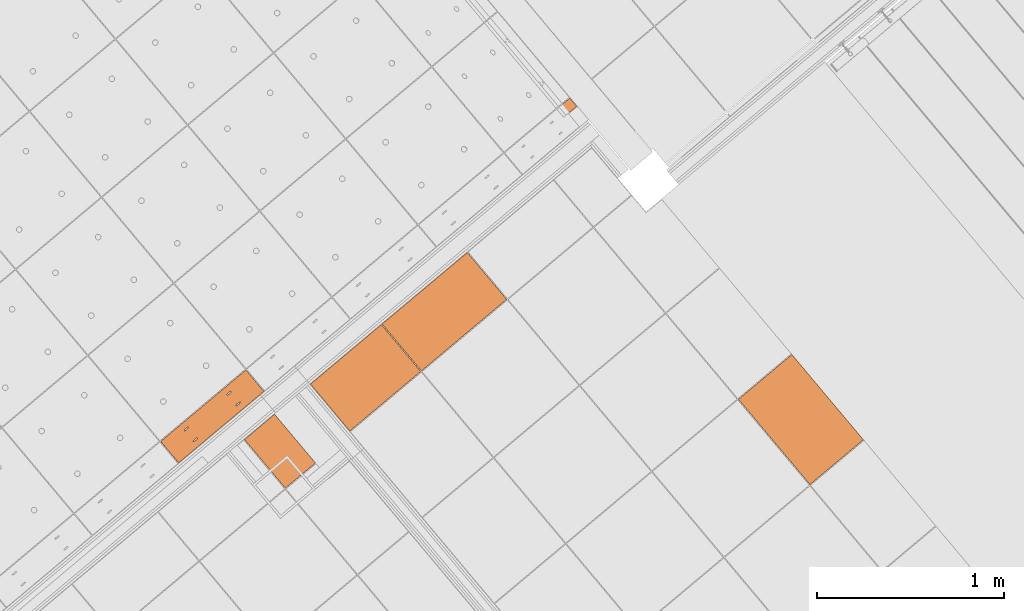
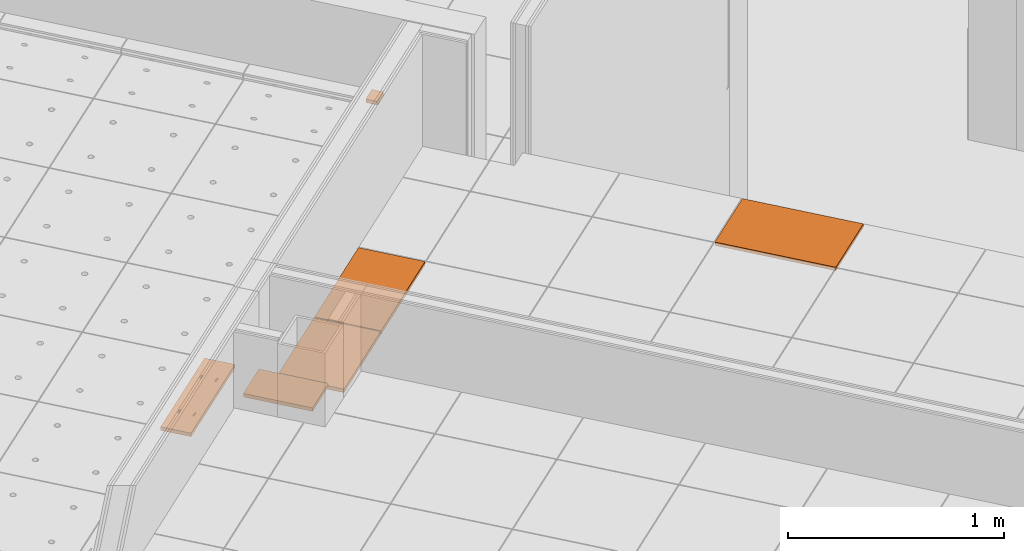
# One storey, part 324 of 338: 6 proxies, 3 elements without a shape of their own.
"""IFC2X3 building model written with IfcOpenShell, lengths in millimetres."""

from ifc_helpers import new_model, entity, si_unit, converted_unit, derived_unit, money_unit, direction, frame, origin_with_axes, place, context, subcontext, project, spatial, faceted_brep, material, type_object, element, aggregate, save


model = new_model("IFC2X3")

# Units and contexts
model_context = context("Model", 3, precision=0.01, world=origin_with_axes(), true_north=direction((0.0, 1.0)))
plan_context = context("Plan", 3, precision=0.01, world=origin_with_axes(), true_north=direction((0.0, 1.0)))
body_context = subcontext(model_context, "Body", "Model", "MODEL_VIEW")
ifc_project = project(units=[si_unit("LENGTHUNIT", "METRE", prefix="MILLI"), si_unit("AREAUNIT", "SQUARE_METRE"), si_unit("VOLUMEUNIT", "CUBIC_METRE"), converted_unit("PLANEANGLEUNIT", "DEGREE", entity("IfcPlaneAngleMeasure", 0.0174532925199), si_unit("PLANEANGLEUNIT", "RADIAN"), dimensions=[0, 0, 0, 0, 0, 0, 0]), money_unit("EUR"), converted_unit("TIMEUNIT", "Year", entity("IfcTimeMeasure", 31556926.0), si_unit("TIMEUNIT", "SECOND"), dimensions=[0, 0, 1, 0, 0, 0, 0]), si_unit("MASSUNIT", "GRAM", prefix="KILO"), si_unit("THERMODYNAMICTEMPERATUREUNIT", "DEGREE_CELSIUS"), si_unit("LUMINOUSINTENSITYUNIT", "LUMEN"), si_unit("ENERGYUNIT", "JOULE", prefix="MEGA"), derived_unit("THERMALCONDUCTANCEUNIT", [(si_unit("POWERUNIT", "WATT"), 1), (si_unit("LENGTHUNIT", "METRE"), -1), (si_unit("THERMODYNAMICTEMPERATUREUNIT", "KELVIN"), -1)]), derived_unit("SPECIFICHEATCAPACITYUNIT", [(si_unit("ENERGYUNIT", "JOULE"), 1), (si_unit("MASSUNIT", "GRAM", prefix="KILO"), -1), (si_unit("THERMODYNAMICTEMPERATUREUNIT", "KELVIN"), -1)]), derived_unit("MASSDENSITYUNIT", [(si_unit("MASSUNIT", "GRAM", prefix="KILO"), 1), (si_unit("VOLUMEUNIT", "CUBIC_METRE"), -1)])], contexts=[model_context, plan_context])

# Site, building, storey
site_placement = place(None, origin_with_axes())
site = spatial("IfcSite", under=ifc_project, at=site_placement, Name="Fortuinstraat Woensdrecht", CompositionType="ELEMENT")
building_placement = place(site_placement, origin_with_axes())
building = spatial("IfcBuilding", under=site, at=building_placement, Name="IKC Fortuna", CompositionType="ELEMENT")
storey_placement = place(building_placement, origin_with_axes())
storey = spatial("IfcBuildingStorey", under=building, at=storey_placement, Name="00 begane grond", CompositionType="ELEMENT", Elevation=0.0)

# Covering, proxy
covering_type = type_object("IfcCoveringType", Name="Curtain Wall Type", PredefinedType="CEILING")
covering_1_placement = place(storey_placement, frame((17937.1227498, -4186.27868692, 4660.0), z_axis=(0.0, 0.0, 1.0), x_axis=(1.0, 0.0, 0.0)))
covering_1 = element("IfcCovering", 1, at=covering_1_placement, inside=storey, type_object=covering_type, Name="45_Plafondafwerking_P02", PredefinedType="CEILING")
ifc_material = material(Name="Gipsplaat")
building_element_proxy_type_1 = type_object("IfcBuildingElementProxyType", Name="Distinct Panel 215 x 345 x 20", PredefinedType="NOTDEFINED")
proxy_1_placement = place(covering_1_placement, frame((-3610.28528726, 6803.59297983, 0.0), z_axis=(0.0, 0.0, 1.0), x_axis=(1.0, 0.0, 0.0)))
proxy_1 = element("IfcBuildingElementProxy", 2, at=proxy_1_placement, type_object=building_element_proxy_type_1, material=ifc_material, Name="__Panel-D", context=body_context, shape_type="Brep", body=[
    faceted_brep([(-28.8290820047, 197.907240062, -10.0), (-189.894626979, 62.7570987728, -10.0), (-189.894626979, 62.7570987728, 9.99999999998), (-28.8290820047, 197.907240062, 9.99999999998), (189.894786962, -62.7569858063, -10.0), (28.8289250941, -197.907354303, -10.0), (28.8289250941, -197.907354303, 9.99999999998), (189.894786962, -62.7569858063, 9.99999999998)], [[[0, 1, 2, 3]], [[0, 4, 5, 1]], [[1, 5, 6, 2]], [[3, 2, 6, 7]], [[4, 0, 3, 7]], [[5, 4, 7, 6]]]),
])
aggregate(covering_1, [proxy_1])

# Covering, proxies
covering_2_placement = place(storey_placement, frame((15863.124366, 4456.31398675, 4619.99995334), z_axis=(0.0, 0.0, 1.0), x_axis=(1.0, 0.0, 0.0)))
covering_2 = element("IfcCovering", 3, at=covering_2_placement, inside=storey, type_object=covering_type, Name="45_Plafondafwerking_P01", PredefinedType="CEILING")
building_element_proxy_type_2 = type_object("IfcBuildingElementProxyType", Name="87 x 63 x 20", PredefinedType="NOTDEFINED")
proxy_2_placement = place(covering_2_placement, frame((0.0, 0.0, 40.0000466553), z_axis=(0.0, 0.0, 1.0), x_axis=(1.0, 0.0, 0.0)))
proxy_2 = element("IfcBuildingElementProxy", 4, at=proxy_2_placement, type_object=building_element_proxy_type_2, material=ifc_material, Name="__600x623 Rockfon Krios", context=body_context, shape_type="Brep", body=[
    faceted_brep([(13.0353750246, 48.5275801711, -10.0000000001), (-50.0538819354, -4.41061868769, -10.0000000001), (-50.0538819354, -4.41061868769, 9.99999999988), (13.0353750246, 48.5275801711, 9.99999999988), (50.0538652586, 4.41060134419, -10.0000000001), (-13.0353539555, -48.5275629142, -10.0000000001), (-13.0353539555, -48.5275629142, 9.99999999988), (50.0538652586, 4.41060134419, 9.99999999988)], [[[0, 1, 2, 3]], [[0, 4, 5, 1]], [[1, 5, 6, 2]], [[3, 2, 6, 7]], [[4, 0, 3, 7]], [[5, 4, 7, 6]]]),
])
building_element_proxy_type_3 = type_object("IfcBuildingElementProxyType", Name="Main Panel 600 x 155 x 20", PredefinedType="NOTDEFINED")
proxy_3_placement = place(covering_2_placement, frame((-1898.20334262, -1653.03900548, 13.5167748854), z_axis=(0.0, 0.0, 1.0), x_axis=(0.642787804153, -0.766044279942, 0.0)))
proxy_3 = element("IfcBuildingElementProxy", 5, at=proxy_3_placement, type_object=building_element_proxy_type_3, material=ifc_material, Name="__600x078 Rockfon Krios", context=body_context, shape_type="Brep", body=[
    faceted_brep([(-74.9544142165, 297.441615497, -11.6078419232), (-74.9544142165, -0.0540487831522, -9.99985393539), (-74.9544142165, 0.0540512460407, 9.99985392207), (-74.9544142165, 297.549715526, 8.3918659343), (-2.90851787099e-06, 297.441615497, -11.6078419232), (74.9544083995, 297.441615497, -11.6078419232), (74.9544083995, -0.054048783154, -9.99985393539), (74.9544083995, -297.549713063, -8.39186594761), (-2.90851964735e-06, -297.549713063, -8.39186594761), (-74.9544142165, -297.549713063, -8.39186594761), (37.8078411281, 133.694001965, -10.7227729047), (38.4590716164, 134.149762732, -10.7252363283), (39.0804685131, 135.047436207, -10.7300883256), (39.6531509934, 136.359747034, -10.7371814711), (40.1597183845, 138.046821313, -10.7463002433), (40.5847788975, 140.057398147, -10.7571675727), (40.9154172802, 142.330387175, -10.7694532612), (41.1415872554, 144.796724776, -10.7827840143), (41.256416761, 147.38147253, -10.7967547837), (41.256416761, 150.006094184, -10.8109410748), (41.1415872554, 152.590841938, -10.8249118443), (40.9154172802, 155.057179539, -10.8382425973), (40.5847788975, 157.330168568, -10.8505282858), (40.1597183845, 159.3407454, -10.8613956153), (39.6531509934, 161.02781968, -10.8705143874), (39.0804685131, 162.340130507, -10.877607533), (38.4590716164, 163.237803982, -10.8824595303), (37.8078411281, 163.693564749, -10.8849229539), (37.4772027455, 163.693564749, -10.8849229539), (37.1465643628, 163.693564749, -10.8849229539), (36.4953338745, 163.237803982, -10.8824595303), (35.8739369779, 162.340130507, -10.877607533), (35.3012544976, 161.02781968, -10.8705143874), (34.7946871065, 159.3407454, -10.8613956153), (34.3696265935, 157.330168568, -10.8505282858), (34.0389882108, 155.057179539, -10.8382425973), (33.8128182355, 152.590841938, -10.8249118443), (33.6979887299, 150.006094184, -10.8109410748), (33.6979887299, 147.38147253, -10.7967547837), (33.8128182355, 144.796724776, -10.7827840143), (34.0389882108, 142.330387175, -10.7694532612), (34.3696265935, 140.057398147, -10.7571675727), (34.7946871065, 138.046821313, -10.7463002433), (35.3012544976, 136.359747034, -10.7371814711), (35.8739369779, 135.047436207, -10.7300883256), (36.4953338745, 134.149762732, -10.7252363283), (37.1465643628, 133.694001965, -10.7227729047), (37.8078411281, -163.801662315, -9.1147849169), (38.4590716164, -163.345901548, -9.1172483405), (39.0804685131, -162.448228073, -9.12210033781), (39.6531509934, -161.135917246, -9.12919348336), (40.1597183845, -159.448842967, -9.1383122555), (40.5847788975, -157.438266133, -9.14917958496), (40.9154172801, -155.165277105, -9.16146527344), (41.1415872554, -152.698939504, -9.17479602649), (41.256416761, -150.11419175, -9.18876679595), (41.256416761, -147.489570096, -9.20295308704), (41.1415872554, -144.904822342, -9.2169238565), (40.9154172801, -142.438484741, -9.23025460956), (40.5847788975, -140.165495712, -9.24254029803), (40.1597183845, -138.15491888, -9.25340762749), (39.6531509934, -136.4678446, -9.26252639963), (39.0804685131, -135.155533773, -9.26961954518), (38.4590716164, -134.257860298, -9.2744715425), (37.8078411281, -133.802099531, -9.27693496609), (37.4772027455, -133.802099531, -9.27693496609), (37.1465643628, -133.802099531, -9.27693496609), (36.4953338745, -134.257860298, -9.2744715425), (35.8739369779, -135.155533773, -9.26961954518), (35.3012544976, -136.4678446, -9.26252639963), (34.7946871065, -138.15491888, -9.25340762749), (34.3696265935, -140.165495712, -9.24254029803), (34.0389882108, -142.438484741, -9.23025460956), (33.8128182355, -144.904822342, -9.2169238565), (33.6979887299, -147.489570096, -9.20295308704), (33.6979887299, -150.11419175, -9.18876679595), (33.8128182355, -152.698939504, -9.17479602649), (34.0389882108, -155.165277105, -9.16146527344), (34.3696265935, -157.438266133, -9.14917958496), (34.7946871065, -159.448842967, -9.1383122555), (35.3012544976, -161.135917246, -9.12919348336), (35.8739369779, -162.448228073, -9.12210033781), (36.4953338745, -163.345901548, -9.1172483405), (37.1465643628, -163.801662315, -9.1147849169), (-37.1465701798, -163.801662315, -9.1147849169), (-36.4953396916, -163.345901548, -9.1172483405), (-35.8739427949, -162.448228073, -9.12210033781), (-35.3012603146, -161.135917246, -9.12919348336), (-34.7946929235, -159.448842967, -9.1383122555), (-34.3696324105, -157.438266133, -9.14917958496), (-34.0389940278, -155.165277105, -9.16146527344), (-33.8128240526, -152.698939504, -9.17479602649), (-33.697994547, -150.11419175, -9.18876679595), (-33.697994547, -147.489570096, -9.20295308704), (-33.8128240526, -144.904822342, -9.2169238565), (-34.0389940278, -142.438484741, -9.23025460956), (-34.3696324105, -140.165495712, -9.24254029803), (-34.7946929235, -138.15491888, -9.25340762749), (-35.3012603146, -136.4678446, -9.26252639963), (-35.8739427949, -135.155533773, -9.26961954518), (-36.4953396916, -134.257860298, -9.2744715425), (-37.1465701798, -133.802099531, -9.27693496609), (-37.4772085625, -133.802099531, -9.27693496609), (-37.8078469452, -133.802099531, -9.27693496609), (-38.4590774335, -134.257860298, -9.2744715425), (-39.0804743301, -135.155533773, -9.26961954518), (-39.6531568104, -136.4678446, -9.26252639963), (-40.1597242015, -138.15491888, -9.25340762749), (-40.5847847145, -140.165495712, -9.24254029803), (-40.9154230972, -142.438484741, -9.23025460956), (-41.1415930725, -144.904822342, -9.2169238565), (-41.256422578, -147.489570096, -9.20295308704), (-41.256422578, -150.11419175, -9.18876679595), (-41.1415930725, -152.698939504, -9.17479602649), (-40.9154230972, -155.165277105, -9.16146527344), (-40.5847847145, -157.438266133, -9.14917958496), (-40.1597242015, -159.448842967, -9.1383122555), (-39.6531568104, -161.135917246, -9.12919348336), (-39.0804743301, -162.448228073, -9.12210033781), (-38.4590774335, -163.345901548, -9.1172483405), (-37.8078469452, -163.801662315, -9.1147849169), (-37.1465701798, 133.694001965, -10.7227729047), (-36.4953396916, 134.149762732, -10.7252363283), (-35.8739427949, 135.047436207, -10.7300883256), (-35.3012603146, 136.359747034, -10.7371814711), (-34.7946929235, 138.046821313, -10.7463002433), (-34.3696324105, 140.057398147, -10.7571675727), (-34.0389940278, 142.330387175, -10.7694532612), (-33.8128240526, 144.796724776, -10.7827840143), (-33.697994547, 147.38147253, -10.7967547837), (-33.697994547, 150.006094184, -10.8109410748), (-33.8128240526, 152.590841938, -10.8249118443), (-34.0389940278, 155.057179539, -10.8382425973), (-34.3696324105, 157.330168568, -10.8505282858), (-34.7946929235, 159.3407454, -10.8613956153), (-35.3012603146, 161.02781968, -10.8705143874), (-35.8739427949, 162.340130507, -10.877607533), (-36.4953396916, 163.237803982, -10.8824595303), (-37.1465701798, 163.693564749, -10.8849229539), (-37.4772085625, 163.693564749, -10.8849229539), (-37.8078469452, 163.693564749, -10.8849229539), (-38.4590774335, 163.237803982, -10.8824595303), (-39.0804743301, 162.340130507, -10.877607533), (-39.6531568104, 161.02781968, -10.8705143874), (-40.1597242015, 159.3407454, -10.8613956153), (-40.5847847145, 157.330168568, -10.8505282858), (-40.9154230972, 155.057179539, -10.8382425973), (-41.1415930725, 152.590841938, -10.8249118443), (-41.256422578, 150.006094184, -10.8109410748), (-41.256422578, 147.38147253, -10.7967547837), (-41.1415930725, 144.796724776, -10.7827840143), (-40.9154230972, 142.330387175, -10.7694532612), (-40.5847847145, 140.057398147, -10.7571675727), (-40.1597242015, 138.046821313, -10.7463002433), (-39.6531568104, 136.359747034, -10.7371814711), (-39.0804743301, 135.047436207, -10.7300883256), (-38.4590774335, 134.149762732, -10.7252363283), (-37.8078469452, 133.694001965, -10.7227729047), (-74.9544142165, -297.441613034, 11.6078419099), (-2.90852053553e-06, -297.441613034, 11.6078419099), (74.9544083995, -297.441613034, 11.6078419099), (74.9544083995, 0.0540512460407, 9.99985392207), (74.9544083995, 297.549715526, 8.3918659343), (-2.90851787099e-06, 297.549715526, 8.3918659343), (37.8078411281, 133.802101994, 9.27693495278), (37.1465643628, 133.802101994, 9.27693495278), (36.4953338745, 134.257862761, 9.27447152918), (35.8739369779, 135.155536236, 9.26961953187), (35.3012544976, 136.467847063, 9.26252638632), (34.7946871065, 138.154921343, 9.25340761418), (34.3696265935, 140.165498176, 9.24254028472), (34.0389882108, 142.438487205, 9.23025459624), (33.8128182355, 144.904824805, 9.21692384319), (33.6979887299, 147.489572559, 9.20295307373), (33.6979887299, 150.114194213, 9.18876678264), (33.8128182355, 152.698941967, 9.17479601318), (34.0389882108, 155.165279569, 9.16146526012), (34.3696265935, 157.438268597, 9.14917957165), (34.7946871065, 159.44884543, 9.13831224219), (35.3012544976, 161.135919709, 9.12919347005), (35.8739369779, 162.448230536, 9.1221003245), (36.4953338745, 163.345904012, 9.11724832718), (37.1465643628, 163.801664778, 9.11478490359), (37.4772027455, 163.801664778, 9.11478490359), (37.8078411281, 163.801664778, 9.11478490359), (38.4590716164, 163.345904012, 9.11724832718), (39.0804685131, 162.448230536, 9.1221003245), (39.6531509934, 161.135919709, 9.12919347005), (40.1597183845, 159.44884543, 9.13831224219), (40.5847788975, 157.438268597, 9.14917957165), (40.9154172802, 155.165279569, 9.16146526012), (41.1415872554, 152.698941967, 9.17479601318), (41.256416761, 150.114194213, 9.18876678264), (41.256416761, 147.489572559, 9.20295307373), (41.1415872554, 144.904824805, 9.21692384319), (40.9154172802, 142.438487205, 9.23025459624), (40.5847788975, 140.165498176, 9.24254028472), (40.1597183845, 138.154921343, 9.25340761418), (39.6531509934, 136.467847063, 9.26252638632), (39.0804685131, 135.155536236, 9.26961953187), (38.4590716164, 134.257862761, 9.27447152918), (37.8078411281, -163.693562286, 10.8849229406), (37.1465643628, -163.693562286, 10.8849229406), (36.4953338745, -163.237801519, 10.882459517), (35.8739369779, -162.340128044, 10.8776075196), (35.3012544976, -161.027817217, 10.8705143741), (34.7946871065, -159.340742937, 10.861395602), (34.3696265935, -157.330166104, 10.8505282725), (34.0389882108, -155.057177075, 10.838242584), (33.8128182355, -152.590839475, 10.824911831), (33.6979887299, -150.006091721, 10.8109410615), (33.6979887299, -147.381470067, 10.7967547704), (33.8128182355, -144.796722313, 10.782784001), (34.0389882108, -142.330384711, 10.7694532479), (34.3696265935, -140.057395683, 10.7571675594), (34.7946871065, -138.04681885, 10.74630023), (35.3012544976, -136.359744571, 10.7371814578), (35.8739369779, -135.047433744, 10.7300883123), (36.4953338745, -134.149760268, 10.725236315), (37.1465643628, -133.693999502, 10.7227728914), (37.4772027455, -133.693999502, 10.7227728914), (37.8078411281, -133.693999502, 10.7227728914), (38.4590716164, -134.149760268, 10.725236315), (39.0804685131, -135.047433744, 10.7300883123), (39.6531509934, -136.359744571, 10.7371814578), (40.1597183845, -138.04681885, 10.74630023), (40.5847788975, -140.057395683, 10.7571675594), (40.9154172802, -142.330384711, 10.7694532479), (41.1415872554, -144.796722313, 10.782784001), (41.256416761, -147.381470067, 10.7967547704), (41.256416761, -150.006091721, 10.8109410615), (41.1415872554, -152.590839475, 10.824911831), (40.9154172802, -155.057177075, 10.838242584), (40.5847788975, -157.330166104, 10.8505282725), (40.1597183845, -159.340742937, 10.861395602), (39.6531509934, -161.027817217, 10.8705143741), (39.0804685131, -162.340128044, 10.8776075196), (38.4590716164, -163.237801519, 10.882459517), (-37.1465701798, -163.693562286, 10.8849229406), (-37.8078469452, -163.693562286, 10.8849229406), (-38.4590774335, -163.237801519, 10.882459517), (-39.0804743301, -162.340128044, 10.8776075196), (-39.6531568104, -161.027817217, 10.8705143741), (-40.1597242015, -159.340742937, 10.861395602), (-40.5847847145, -157.330166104, 10.8505282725), (-40.9154230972, -155.057177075, 10.838242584), (-41.1415930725, -152.590839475, 10.824911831), (-41.256422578, -150.006091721, 10.8109410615), (-41.256422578, -147.381470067, 10.7967547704), (-41.1415930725, -144.796722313, 10.782784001), (-40.9154230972, -142.330384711, 10.7694532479), (-40.5847847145, -140.057395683, 10.7571675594), (-40.1597242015, -138.04681885, 10.74630023), (-39.6531568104, -136.359744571, 10.7371814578), (-39.0804743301, -135.047433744, 10.7300883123), (-38.4590774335, -134.149760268, 10.725236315), (-37.8078469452, -133.693999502, 10.7227728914), (-37.4772085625, -133.693999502, 10.7227728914), (-37.1465701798, -133.693999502, 10.7227728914), (-36.4953396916, -134.149760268, 10.725236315), (-35.8739427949, -135.047433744, 10.7300883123), (-35.3012603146, -136.359744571, 10.7371814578), (-34.7946929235, -138.04681885, 10.74630023), (-34.3696324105, -140.057395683, 10.7571675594), (-34.0389940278, -142.330384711, 10.7694532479), (-33.8128240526, -144.796722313, 10.782784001), (-33.697994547, -147.381470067, 10.7967547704), (-33.697994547, -150.006091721, 10.8109410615), (-33.8128240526, -152.590839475, 10.824911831), (-34.0389940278, -155.057177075, 10.838242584), (-34.3696324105, -157.330166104, 10.8505282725), (-34.7946929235, -159.340742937, 10.861395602), (-35.3012603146, -161.027817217, 10.8705143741), (-35.8739427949, -162.340128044, 10.8776075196), (-36.4953396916, -163.237801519, 10.882459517), (-37.1465701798, 133.802101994, 9.27693495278), (-37.8078469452, 133.802101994, 9.27693495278), (-38.4590774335, 134.257862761, 9.27447152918), (-39.0804743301, 135.155536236, 9.26961953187), (-39.6531568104, 136.467847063, 9.26252638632), (-40.1597242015, 138.154921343, 9.25340761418), (-40.5847847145, 140.165498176, 9.24254028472), (-40.9154230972, 142.438487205, 9.23025459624), (-41.1415930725, 144.904824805, 9.21692384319), (-41.256422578, 147.489572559, 9.20295307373), (-41.256422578, 150.114194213, 9.18876678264), (-41.1415930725, 152.698941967, 9.17479601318), (-40.9154230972, 155.165279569, 9.16146526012), (-40.5847847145, 157.438268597, 9.14917957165), (-40.1597242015, 159.44884543, 9.13831224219), (-39.6531568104, 161.135919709, 9.12919347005), (-39.0804743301, 162.448230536, 9.1221003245), (-38.4590774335, 163.345904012, 9.11724832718), (-37.8078469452, 163.801664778, 9.11478490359), (-37.4772085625, 163.801664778, 9.11478490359), (-37.1465701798, 163.801664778, 9.11478490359), (-36.4953396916, 163.345904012, 9.11724832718), (-35.8739427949, 162.448230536, 9.1221003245), (-35.3012603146, 161.135919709, 9.12919347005), (-34.7946929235, 159.44884543, 9.13831224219), (-34.3696324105, 157.438268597, 9.14917957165), (-34.0389940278, 155.165279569, 9.16146526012), (-33.8128240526, 152.698941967, 9.17479601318), (-33.697994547, 150.114194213, 9.18876678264), (-33.697994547, 147.489572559, 9.20295307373), (-33.8128240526, 144.904824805, 9.21692384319), (-34.0389940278, 142.438487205, 9.23025459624), (-34.3696324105, 140.165498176, 9.24254028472), (-34.7946929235, 138.154921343, 9.25340761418), (-35.3012603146, 136.467847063, 9.26252638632), (-35.8739427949, 135.155536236, 9.26961953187), (-36.4953396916, 134.257862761, 9.27447152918)], [[[0, 1, 2, 3]], [[0, 4, 5, 6, 7, 8, 9, 1], [10, 11, 12, 13, 14, 15, 16, 17, 18, 19, 20, 21, 22, 23, 24, 25, 26, 27, 28, 29, 30, 31, 32, 33, 34, 35, 36, 37, 38, 39, 40, 41, 42, 43, 44, 45, 46], [47, 48, 49, 50, 51, 52, 53, 54, 55, 56, 57, 58, 59, 60, 61, 62, 63, 64, 65, 66, 67, 68, 69, 70, 71, 72, 73, 74, 75, 76, 77, 78, 79, 80, 81, 82, 83], [84, 85, 86, 87, 88, 89, 90, 91, 92, 93, 94, 95, 96, 97, 98, 99, 100, 101, 102, 103, 104, 105, 106, 107, 108, 109, 110, 111, 112, 113, 114, 115, 116, 117, 118, 119, 120], [121, 122, 123, 124, 125, 126, 127, 128, 129, 130, 131, 132, 133, 134, 135, 136, 137, 138, 139, 140, 141, 142, 143, 144, 145, 146, 147, 148, 149, 150, 151, 152, 153, 154, 155, 156, 157]], [[1, 9, 158, 2]], [[3, 2, 158, 159, 160, 161, 162, 163], [164, 165, 166, 167, 168, 169, 170, 171, 172, 173, 174, 175, 176, 177, 178, 179, 180, 181, 182, 183, 184, 185, 186, 187, 188, 189, 190, 191, 192, 193, 194, 195, 196, 197, 198, 199, 200], [201, 202, 203, 204, 205, 206, 207, 208, 209, 210, 211, 212, 213, 214, 215, 216, 217, 218, 219, 220, 221, 222, 223, 224, 225, 226, 227, 228, 229, 230, 231, 232, 233, 234, 235, 236, 237], [238, 239, 240, 241, 242, 243, 244, 245, 246, 247, 248, 249, 250, 251, 252, 253, 254, 255, 256, 257, 258, 259, 260, 261, 262, 263, 264, 265, 266, 267, 268, 269, 270, 271, 272, 273, 274], [275, 276, 277, 278, 279, 280, 281, 282, 283, 284, 285, 286, 287, 288, 289, 290, 291, 292, 293, 294, 295, 296, 297, 298, 299, 300, 301, 302, 303, 304, 305, 306, 307, 308, 309, 310, 311]], [[4, 0, 3, 163]], [[5, 4, 163, 162]], [[6, 5, 162, 161]], [[7, 6, 161, 160]], [[8, 7, 160, 159]], [[9, 8, 159, 158]], [[11, 10, 164, 200]], [[12, 11, 200, 199]], [[13, 12, 199, 198]], [[14, 13, 198, 197]], [[15, 14, 197, 196]], [[16, 15, 196, 195]], [[17, 16, 195, 194]], [[18, 17, 194, 193]], [[19, 18, 193, 192]], [[20, 19, 192, 191]], [[21, 20, 191, 190]], [[22, 21, 190, 189]], [[23, 22, 189, 188]], [[24, 23, 188, 187]], [[25, 24, 187, 186]], [[26, 25, 186, 185]], [[27, 26, 185, 184]], [[28, 27, 184, 183]], [[29, 28, 183, 182]], [[30, 29, 182, 181]], [[31, 30, 181, 180]], [[32, 31, 180, 179]], [[33, 32, 179, 178]], [[34, 33, 178, 177]], [[35, 34, 177, 176]], [[36, 35, 176, 175]], [[37, 36, 175, 174]], [[38, 37, 174, 173]], [[39, 38, 173, 172]], [[40, 39, 172, 171]], [[41, 40, 171, 170]], [[42, 41, 170, 169]], [[43, 42, 169, 168]], [[44, 43, 168, 167]], [[45, 44, 167, 166]], [[46, 45, 166, 165]], [[10, 46, 165, 164]], [[48, 47, 201, 237]], [[49, 48, 237, 236]], [[50, 49, 236, 235]], [[51, 50, 235, 234]], [[52, 51, 234, 233]], [[53, 52, 233, 232]], [[54, 53, 232, 231]], [[55, 54, 231, 230]], [[56, 55, 230, 229]], [[57, 56, 229, 228]], [[58, 57, 228, 227]], [[59, 58, 227, 226]], [[60, 59, 226, 225]], [[61, 60, 225, 224]], [[62, 61, 224, 223]], [[63, 62, 223, 222]], [[64, 63, 222, 221]], [[65, 64, 221, 220]], [[66, 65, 220, 219]], [[67, 66, 219, 218]], [[68, 67, 218, 217]], [[69, 68, 217, 216]], [[70, 69, 216, 215]], [[71, 70, 215, 214]], [[72, 71, 214, 213]], [[73, 72, 213, 212]], [[74, 73, 212, 211]], [[75, 74, 211, 210]], [[76, 75, 210, 209]], [[77, 76, 209, 208]], [[78, 77, 208, 207]], [[79, 78, 207, 206]], [[80, 79, 206, 205]], [[81, 80, 205, 204]], [[82, 81, 204, 203]], [[83, 82, 203, 202]], [[47, 83, 202, 201]], [[85, 84, 238, 274]], [[86, 85, 274, 273]], [[87, 86, 273, 272]], [[88, 87, 272, 271]], [[89, 88, 271, 270]], [[90, 89, 270, 269]], [[91, 90, 269, 268]], [[92, 91, 268, 267]], [[93, 92, 267, 266]], [[94, 93, 266, 265]], [[95, 94, 265, 264]], [[96, 95, 264, 263]], [[97, 96, 263, 262]], [[98, 97, 262, 261]], [[99, 98, 261, 260]], [[100, 99, 260, 259]], [[101, 100, 259, 258]], [[102, 101, 258, 257]], [[103, 102, 257, 256]], [[104, 103, 256, 255]], [[105, 104, 255, 254]], [[106, 105, 254, 253]], [[107, 106, 253, 252]], [[108, 107, 252, 251]], [[109, 108, 251, 250]], [[110, 109, 250, 249]], [[111, 110, 249, 248]], [[112, 111, 248, 247]], [[113, 112, 247, 246]], [[114, 113, 246, 245]], [[115, 114, 245, 244]], [[116, 115, 244, 243]], [[117, 116, 243, 242]], [[118, 117, 242, 241]], [[119, 118, 241, 240]], [[120, 119, 240, 239]], [[84, 120, 239, 238]], [[122, 121, 275, 311]], [[123, 122, 311, 310]], [[124, 123, 310, 309]], [[125, 124, 309, 308]], [[126, 125, 308, 307]], [[127, 126, 307, 306]], [[128, 127, 306, 305]], [[129, 128, 305, 304]], [[130, 129, 304, 303]], [[131, 130, 303, 302]], [[132, 131, 302, 301]], [[133, 132, 301, 300]], [[134, 133, 300, 299]], [[135, 134, 299, 298]], [[136, 135, 298, 297]], [[137, 136, 297, 296]], [[138, 137, 296, 295]], [[139, 138, 295, 294]], [[140, 139, 294, 293]], [[141, 140, 293, 292]], [[142, 141, 292, 291]], [[143, 142, 291, 290]], [[144, 143, 290, 289]], [[145, 144, 289, 288]], [[146, 145, 288, 287]], [[147, 146, 287, 286]], [[148, 147, 286, 285]], [[149, 148, 285, 284]], [[150, 149, 284, 283]], [[151, 150, 283, 282]], [[152, 151, 282, 281]], [[153, 152, 281, 280]], [[154, 153, 280, 279]], [[155, 154, 279, 278]], [[156, 155, 278, 277]], [[157, 156, 277, 276]], [[121, 157, 276, 275]]]),
])
aggregate(covering_2, [proxy_2, proxy_3])

covering_3_placement = place(storey_placement, frame((19821.8074512, -1204.73183435, 4460.0), z_axis=(0.0, 0.0, 1.0), x_axis=(1.0, 0.0, 0.0)))
covering_3 = element("IfcCovering", 6, at=covering_3_placement, inside=storey, type_object=covering_type, Name="45_Plafondafwerking_P04", PredefinedType="CEILING")
building_element_proxy_type_4 = type_object("IfcBuildingElementProxyType", Name="Distinct Panel 378 x 600 x 20", PredefinedType="NOTDEFINED")
proxy_4_placement = place(covering_3_placement, frame((-2710.78450187, 3991.33681074, 0.0), z_axis=(0.0, 0.0, 1.0), x_axis=(1.0, 0.0, 0.0)))
proxy_4 = element("IfcBuildingElementProxy", 7, at=proxy_4_placement, type_object=building_element_proxy_type_4, material=ifc_material, Name="__Panel-D", context=body_context, shape_type="Brep", body=[
    faceted_brep([(-48.361188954, 347.778867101, -10.0), (-48.361188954, 347.778867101, 9.99999999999), (334.097527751, -108.017523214, 9.99999999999), (334.097527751, -108.017523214, -10.0), (-334.097528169, 108.017523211, -10.0), (-334.097528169, 108.017523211, 9.99999999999), (48.3611780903, -347.778867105, 9.99999999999), (48.3611780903, -347.778867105, -10.0)], [[[0, 1, 2, 3]], [[4, 5, 1, 0]], [[1, 5, 6, 2]], [[3, 2, 6, 7]], [[0, 3, 7, 4]], [[7, 6, 5, 4]]]),
])
building_element_proxy_type_5 = type_object("IfcBuildingElementProxyType", Name="Distinct Panel 600 x 333 x 20", PredefinedType="NOTDEFINED")
proxy_5_placement = place(covering_3_placement, frame((-4616.08148751, 4567.79586118, 0.0), z_axis=(0.0, 0.0, 1.0), x_axis=(1.0, 0.0, 0.0)))
proxy_5 = element("IfcBuildingElementProxy", 8, at=proxy_5_placement, type_object=building_element_proxy_type_5, material=ifc_material, Name="__Panel-D", context=body_context, shape_type="Brep", body=[
    faceted_brep([(122.612322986, 316.704124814, -10.0), (122.612322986, 316.704124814, 9.99999999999), (333.184068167, 65.7545767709, 9.99999999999), (333.184068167, 65.7545767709, -10.0), (-333.18406755, -65.7545803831, -10.0), (-333.18406755, -65.7545803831, 9.99999999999), (-122.612322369, -316.704118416, 9.99999999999), (-122.612322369, -316.704118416, -10.0)], [[[0, 1, 2, 3]], [[4, 5, 1, 0]], [[1, 5, 6, 2]], [[3, 2, 6, 7]], [[0, 3, 7, 4]], [[7, 6, 5, 4]]]),
])
building_element_proxy_type_6 = type_object("IfcBuildingElementProxyType", Name="Distinct Panel 500 x 333 x 20", PredefinedType="NOTDEFINED")
proxy_6_placement = place(covering_3_placement, frame((-5037.40515998, 4214.26325328, 0.0), z_axis=(0.0, 0.0, 1.0), x_axis=(1.0, 0.0, 0.0)))
proxy_6 = element("IfcBuildingElementProxy", 9, at=proxy_6_placement, type_object=building_element_proxy_type_6, material=ifc_material, Name="__Panel-D", context=body_context, shape_type="Brep", body=[
    faceted_brep([(84.309387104, 284.564101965, -10.0), (84.309387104, 284.564101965, 9.99999999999), (294.881114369, 33.6145474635, 9.99999999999), (294.881114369, 33.6145474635, -10.0), (-294.88116396, -33.6145024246, -10.0), (-294.88116396, -33.6145024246, 9.99999999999), (-84.3093568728, -284.564136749, 9.99999999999), (-84.3093568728, -284.564136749, -10.0)], [[[0, 1, 2, 3]], [[4, 5, 1, 0]], [[1, 5, 6, 2]], [[3, 2, 6, 7]], [[0, 3, 7, 4]], [[7, 6, 5, 4]]]),
])
aggregate(covering_3, [proxy_6, proxy_5, proxy_4])

save(model, "model.ifc")
